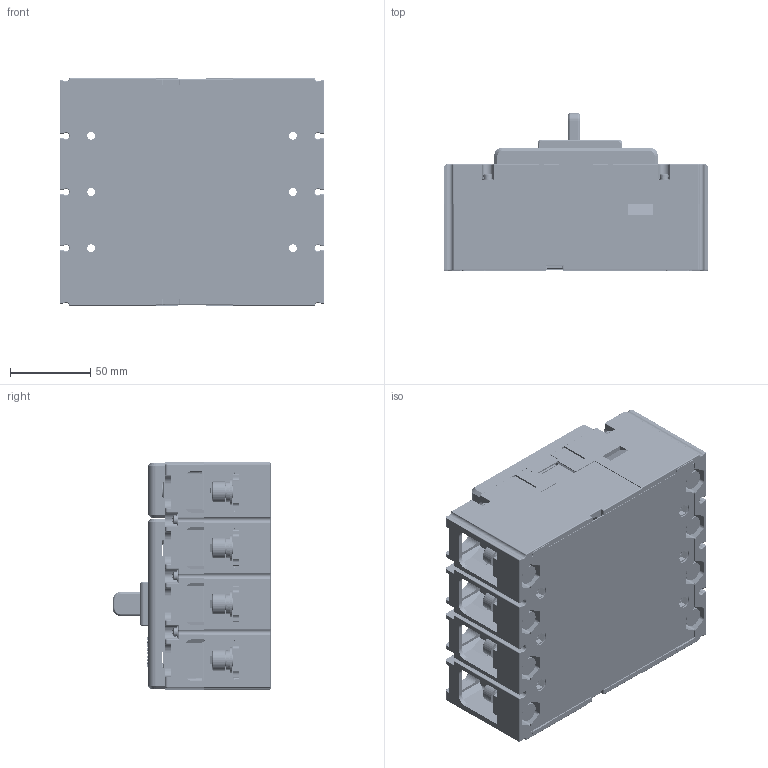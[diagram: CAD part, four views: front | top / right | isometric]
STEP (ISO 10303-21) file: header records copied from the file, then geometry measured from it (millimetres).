
FILE_DESCRIPTION((''),'2;1');
FILE_NAME('2253030100_ASM','2021-06-10T',('yan.shen'),(''),'PRO/ENGINEER BY PARAMETRIC TECHNOLOGY CORPORATION, 2015440','PRO/ENGINEER BY PARAMETRIC TECHNOLOGY CORPORATION, 2015440','');
FILE_SCHEMA(('CONFIG_CONTROL_DESIGN'));
Products named in the file (41): JZ-5024044400; GB_T809-M3X12; 5024044400_ASM; 8940007200; 85050241P01; 5510011100_ASM; 8585064000; 8551033200; 8585064500; 5295008100_ASM; 8751002200; 8750030100; 8253076600; 5253029200_ASM; ZG-5315050100; GB_T809-M3X8; 5315050100_ASM; 8282018100_AF1; 8253077300; 5315051300_ASM; 8315095900; 8315096000; 7010100305R01_GB_T823_M3X10; 7090300201_GB_T93_3; GB_T97_4_3; 5850007700_ASM; 5315051500_ASM; GB_T70_1-M8X20; 7090200704_GB_T97_1_8; 7090370701K_GB_T93_8; 5850004100_AF40_ASM; 5850004100_AF41_ASM; 5850004100_AF42_ASM; 5850004100_AF43_ASM; 5850004100_AF44_ASM; 5850004100_AF45_ASM; 5850004100_AF46_ASM; 5850004100_AF47_ASM; 8742102800; 7030100225_GB_T9074_4-M3X30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
Assembly tree (108 placements, depth 5):
  2253030100_ASM
    5295008100_ASM
      5024044400_ASM
        JZ-5024044400
        GB_T809-M3X12  x10
      8940007200  x8
      5510011100_ASM
        85050241P01  x2
      8585064000  x3
      8551033200  x4
      8585064500
    8751002200  x4
    8750030100  x4
    5253029200_ASM
      8253076600
    5315051500_ASM
      5315051300_ASM
        5315050100_ASM
          ZG-5315050100
          GB_T809-M3X8  x6
        8282018100_AF1
        8253077300
      8315095900
      8315096000
      5850007700_ASM  x6
        7010100305R01_GB_T823_M3X10
        7090300201_GB_T93_3
        GB_T97_4_3
    5850004100_AF40_ASM
      GB_T70_1-M8X20
      7090200704_GB_T97_1_8
      7090370701K_GB_T93_8
    5850004100_AF41_ASM
      GB_T70_1-M8X20
      7090200704_GB_T97_1_8
      7090370701K_GB_T93_8
    5850004100_AF42_ASM
      GB_T70_1-M8X20
      7090200704_GB_T97_1_8
      7090370701K_GB_T93_8
    5850004100_AF43_ASM
      GB_T70_1-M8X20
      7090200704_GB_T97_1_8
      7090370701K_GB_T93_8
    5850004100_AF44_ASM
      GB_T70_1-M8X20
      7090200704_GB_T97_1_8
      7090370701K_GB_T93_8
    5850004100_AF45_ASM
      GB_T70_1-M8X20
      7090200704_GB_T97_1_8
      7090370701K_GB_T93_8
    5850004100_AF46_ASM
      GB_T70_1-M8X20
      7090200704_GB_T97_1_8
      7090370701K_GB_T93_8
    5850004100_AF47_ASM
      GB_T70_1-M8X20
      7090200704_GB_T97_1_8
      7090370701K_GB_T93_8
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Bounding box: 165 x 99 x 142 mm (x, y, z)
Volume: 629915 mm3; surface area: 447364.3 mm2
Topology: 100 solids, 156 shells, 9254 faces, 23678 edges, 14899 vertices
Faces by surface type: plane 4519, cylinder 3179, torus 642, cone 330, sphere 276, bspline 158, extrusion 150
Entity records: 255772 total; most frequent: CARTESIAN_POINT 69005, ORIENTED_EDGE 39004, DIRECTION 38806, EDGE_CURVE 19524, AXIS2_PLACEMENT_3D 12960, VECTOR 12886, LINE 12736, VERTEX_POINT 12284
